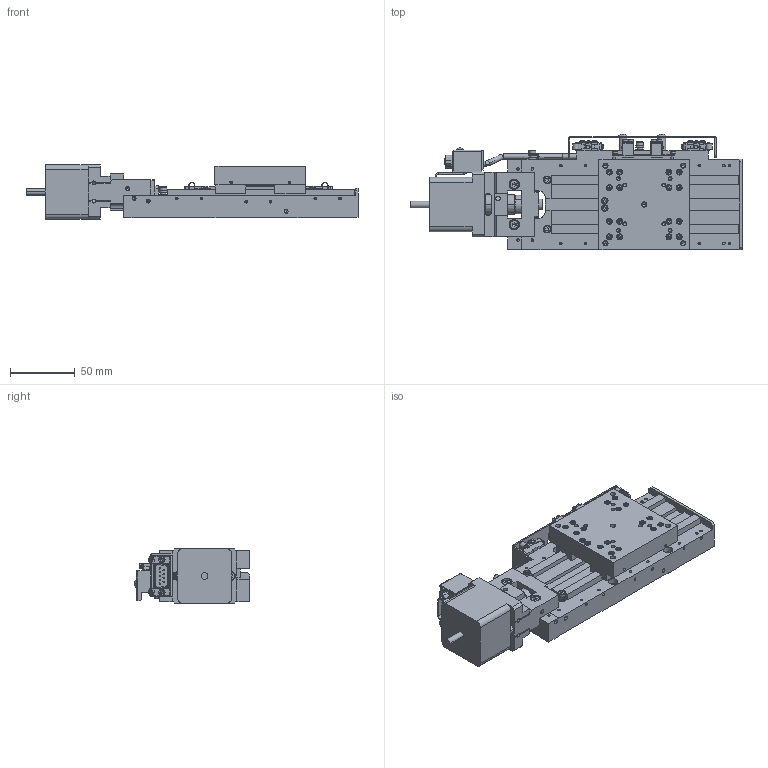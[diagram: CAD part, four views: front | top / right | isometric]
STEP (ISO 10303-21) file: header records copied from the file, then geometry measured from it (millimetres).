
FILE_DESCRIPTION( (''), '2;1');
FILE_NAME ('MVXA07A-L202-R.stp','2022-04-01T11:21:12',(''),(''),'spGate 17.5.5','','');
FILE_SCHEMA (('AUTOMOTIVE_DESIGN'));
Length unit declared in the file: millimetre
Products named in the file (3): Assembly; MVXA07A-L202-R-prt0; MVXA07A-L202-R-prt1
Assembly tree (2 placements, depth 2):
  Assembly
    MVXA07A-L202-R-prt0
    MVXA07A-L202-R-prt1
Bounding box: 256.5 x 89.39 x 42 mm (x, y, z)
Volume: 416773 mm3; surface area: 105170.8 mm2
Topology: 2 solids, 4 shells, 2668 faces, 6423 edges, 3849 vertices
Faces by surface type: plane 1428, cylinder 718, bspline 468, sphere 54
Entity records: 131062 total; most frequent: CARTESIAN_POINT 20919, ORIENTED_EDGE 12486, DIRECTION 11760, COLOUR_RGB 8913, PRESENTATION_STYLE_ASSIGNMENT 8913, STYLED_ITEM 8913, EDGE_CURVE 6243, DRAUGHTING_PRE_DEFINED_CURVE_FONT 6243
